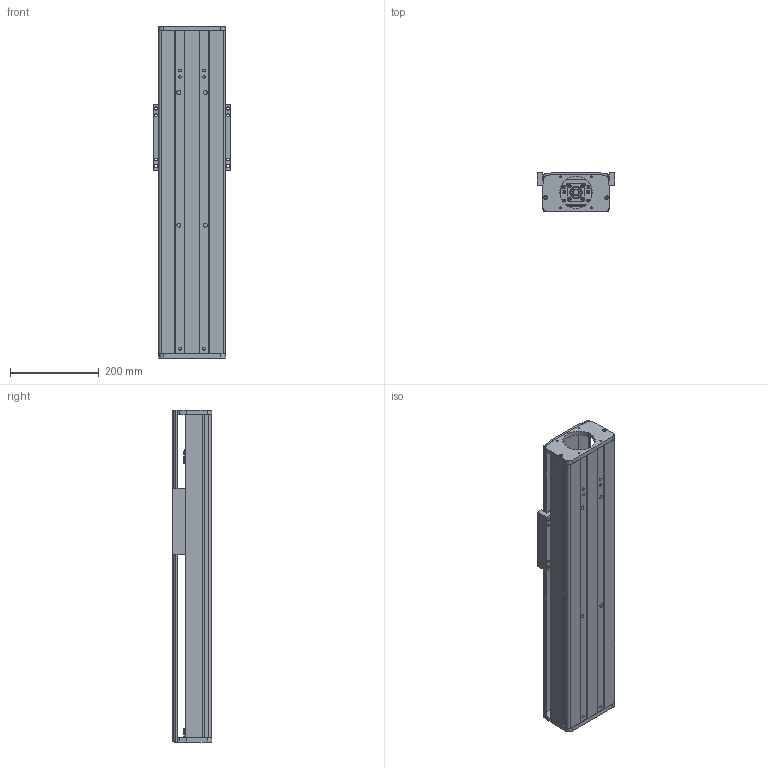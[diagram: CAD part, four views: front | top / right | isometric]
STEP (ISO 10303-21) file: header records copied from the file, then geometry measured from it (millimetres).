
FILE_DESCRIPTION (( 'STEP AP203' ), '1' );
FILE_NAME ('CF150-P450.STEP', '2016-02-23T05:49:26', ( 'Sky123.Org' ), ( 'Sky123.Org' ), 'SwSTEP 2.0', 'SolidWorks 2015', '' );
FILE_SCHEMA (( 'CONFIG_CONTROL_DESIGN' ));
Length unit declared in the file: millimetre
Products named in the file (20): SFU2005-3蹟譫; BF15; 蚾饜极2^蚾饜极1; deep groove ball bearings gb_Rolling bearings 6002 GB 276-94; 150賑輸; ѹȦ-15; 150臏倰第; 150耜啣; 长撑圈-15; HGR15絳寢; CF150裔啣; M15X1坶踡蹟譫; hGH15CA賑輸; CF150-P450; 撑圈-15; BK15+BF15; BK15; 150-20蹟譫釱; 150-86俋离萇儂假蚾啣
Assembly tree (24 placements, depth 3):
  CF150-P450
    150臏倰第
    HGR15絳寢  x2
    hGH15CA賑輸  x4
    BK15+BF15
    150-20蹟譫釱
    150-86俋离萇儂假蚾啣
    BF15
    BK15
      deep groove ball bearings gb_Rolling bearings 6002 GB 276-94  x2
      ѹȦ-15
      长撑圈-15
      M15X1坶踡蹟譫
      撑圈-15
      BK15
    蚾饜极2^蚾饜极1
      SFU2005-3蹟譫
    150賑輸
    150耜啣
    CF150裔啣
Bounding box: 175 x 89 x 750.24 mm (x, y, z)
Volume: 4038173.7 mm3; surface area: 1263472.3 mm2
Topology: 22 solids, 22 shells, 1418 faces, 4310 edges, 2870 vertices
Faces by surface type: cylinder 679, plane 543, torus 112, sphere 64, cone 16, bspline 4
Entity records: 113500 total; most frequent: CARTESIAN_POINT 84416, ORIENTED_EDGE 5842, DIRECTION 5403, EDGE_CURVE 2921, AXIS2_PLACEMENT_3D 2038, VERTEX_POINT 1944, LINE 1327, VECTOR 1327
